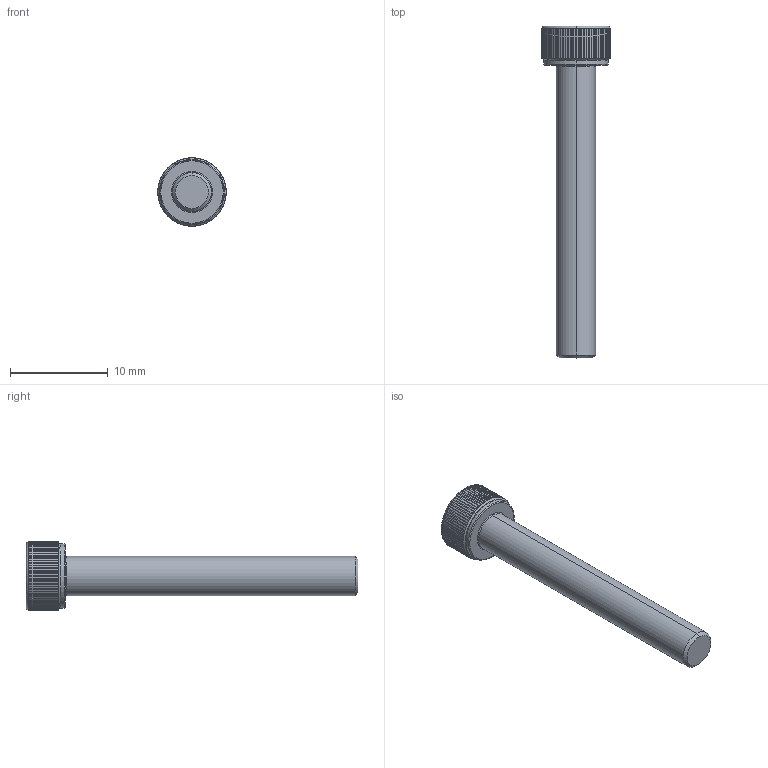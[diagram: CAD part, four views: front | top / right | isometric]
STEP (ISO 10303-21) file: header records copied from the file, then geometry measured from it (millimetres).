
FILE_DESCRIPTION (( 'STEP AP203' ), '1' );
FILE_NAME ('LGDT-304-M4x30.STEP', '2026-08-10T01:42:03', ( '' ), ( '' ), 'SwSTEP 2.0', 'SolidWorks 2020', '' );
FILE_SCHEMA (( 'CONFIG_CONTROL_DESIGN' ));
Length unit declared in the file: millimetre
Products named in the file (1): LGDT-304-M4x30
Bounding box: 7 x 34 x 7 mm (x, y, z)
Volume: 507.7 mm3; surface area: 558.1 mm2
Topology: 1 solids, 1 shells, 204 faces, 576 edges, 376 vertices
Faces by surface type: cylinder 175, cone 11, plane 10, torus 8
Entity records: 10019 total; most frequent: CARTESIAN_POINT 4860, ORIENTED_EDGE 1152, DIRECTION 988, EDGE_CURVE 576, AXIS2_PLACEMENT_3D 398, VERTEX_POINT 376, EDGE_LOOP 206, FACE_OUTER_BOUND 204
